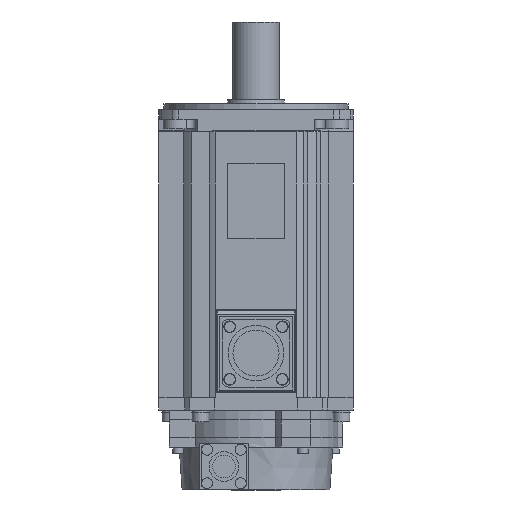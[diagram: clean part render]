
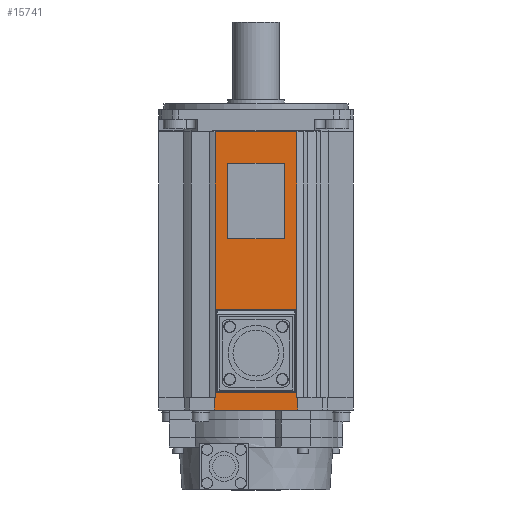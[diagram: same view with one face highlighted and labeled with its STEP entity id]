
A CAD part, front view. The second image highlights one B-rep face of the part: STEP entity #15741.
In plain terms, the highlighted planar face has unit normal (0, -1, 0).
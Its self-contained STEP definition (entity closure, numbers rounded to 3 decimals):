
#4971 = CARTESIAN_POINT ( 'NONE',  ( -20.5, -51., -102.7 ) ) ;
#4972 = CARTESIAN_POINT ( 'NONE',  ( 20.5, -51., -102.7 ) ) ;
#4973 = CARTESIAN_POINT ( 'NONE',  ( 21., -51., -148. ) ) ;
#4974 = DIRECTION ( 'NONE',  ( -1., 0., 0. ) ) ;
#4975 = VECTOR ( 'NONE', #4974, 1000. ) ;
#4976 = CARTESIAN_POINT ( 'NONE',  ( 21.5, -51., -148. ) ) ;
#4977 = LINE ( 'NONE', #4976, #4975 ) ;
#4978 = CARTESIAN_POINT ( 'NONE',  ( 21.5, -51., -148. ) ) ;
#4979 = DIRECTION ( 'NONE',  ( 0., 0., 1. ) ) ;
#4980 = VECTOR ( 'NONE', #4979, 1000. ) ;
#4981 = CARTESIAN_POINT ( 'NONE',  ( 21.5, -51., -301.63 ) ) ;
#4982 = LINE ( 'NONE', #4981, #4980 ) ;
#4983 = CARTESIAN_POINT ( 'NONE',  ( 21.5, -51., -154.5 ) ) ;
#4984 = DIRECTION ( 'NONE',  ( 1., 0., 0. ) ) ;
#4985 = VECTOR ( 'NONE', #4984, 1000. ) ;
#4986 = CARTESIAN_POINT ( 'NONE',  ( 21.5, -51., -154.5 ) ) ;
#4987 = LINE ( 'NONE', #4986, #4985 ) ;
#4988 = CARTESIAN_POINT ( 'NONE',  ( -21.5, -51., -154.5 ) ) ;
#4989 = DIRECTION ( 'NONE',  ( 0., 0., 1. ) ) ;
#4990 = VECTOR ( 'NONE', #4989, 1000. ) ;
#4991 = CARTESIAN_POINT ( 'NONE',  ( -21.5, -51., -301.63 ) ) ;
#4992 = LINE ( 'NONE', #4991, #4990 ) ;
#4993 = CARTESIAN_POINT ( 'NONE',  ( -21.5, -51., -148. ) ) ;
#4994 = DIRECTION ( 'NONE',  ( -1., 0., 0. ) ) ;
#4995 = VECTOR ( 'NONE', #4994, 1000. ) ;
#4996 = CARTESIAN_POINT ( 'NONE',  ( 21.5, -51., -148. ) ) ;
#4997 = LINE ( 'NONE', #4996, #4995 ) ;
#5012 = CARTESIAN_POINT ( 'NONE',  ( -21., -51., -11.5 ) ) ;
#5013 = CARTESIAN_POINT ( 'NONE',  ( -21., -51., -148. ) ) ;
#5014 = DIRECTION ( 'NONE',  ( 0., 0., 1. ) ) ;
#5015 = VECTOR ( 'NONE', #5014, 1000. ) ;
#5016 = CARTESIAN_POINT ( 'NONE',  ( -21., -51., -192.598 ) ) ;
#5017 = LINE ( 'NONE', #5016, #5015 ) ;
#5018 = DIRECTION ( 'NONE',  ( 0., 0., -1. ) ) ;
#5019 = VECTOR ( 'NONE', #5018, 1000. ) ;
#5020 = CARTESIAN_POINT ( 'NONE',  ( -20.5, -51., -102.7 ) ) ;
#5021 = LINE ( 'NONE', #5020, #5019 ) ;
#5022 = CARTESIAN_POINT ( 'NONE',  ( -20.5, -51., -145.7 ) ) ;
#5023 = DIRECTION ( 'NONE',  ( 1., 0., 0. ) ) ;
#5024 = VECTOR ( 'NONE', #5023, 1000. ) ;
#5025 = CARTESIAN_POINT ( 'NONE',  ( 20.5, -51., -145.7 ) ) ;
#5026 = LINE ( 'NONE', #5025, #5024 ) ;
#5027 = CARTESIAN_POINT ( 'NONE',  ( 20.5, -51., -145.7 ) ) ;
#5028 = DIRECTION ( 'NONE',  ( 0., 0., 1. ) ) ;
#5029 = VECTOR ( 'NONE', #5028, 1000. ) ;
#5030 = CARTESIAN_POINT ( 'NONE',  ( 20.5, -51., -102.7 ) ) ;
#5031 = LINE ( 'NONE', #5030, #5029 ) ;
#5040 = DIRECTION ( 'NONE',  ( -1., 0., 0. ) ) ;
#5041 = VECTOR ( 'NONE', #5040, 1000. ) ;
#5042 = CARTESIAN_POINT ( 'NONE',  ( 20.5, -51., -102.7 ) ) ;
#5043 = LINE ( 'NONE', #5042, #5041 ) ;
#5044 = DIRECTION ( 'NONE',  ( 1., 0., 0. ) ) ;
#5045 = DIRECTION ( 'NONE',  ( 0., -1., 0. ) ) ;
#5046 = CARTESIAN_POINT ( 'NONE',  ( 21., -51., -192.598 ) ) ;
#5047 = AXIS2_PLACEMENT_3D ( 'NONE', #5046, #5045, #5044 ) ;
#5049 = PLANE ( 'NONE',  #5047 ) ;
#5050 = FACE_BOUND ( 'NONE', #15776, .T. ) ;
#5051 = FACE_OUTER_BOUND ( 'NONE', #15725, .T. ) ;
#5052 = FACE_BOUND ( 'NONE', #15742, .T. ) ;
#5091 = DIRECTION ( 'NONE',  ( 0., 0., 1. ) ) ;
#5092 = VECTOR ( 'NONE', #5091, 1000. ) ;
#5093 = CARTESIAN_POINT ( 'NONE',  ( 14.5, -51., -66.5 ) ) ;
#5094 = LINE ( 'NONE', #5093, #5092 ) ;
#5104 = CARTESIAN_POINT ( 'NONE',  ( -14.5, -51., -27.5 ) ) ;
#5105 = DIRECTION ( 'NONE',  ( 0., 0., -1. ) ) ;
#5106 = VECTOR ( 'NONE', #5105, 1000. ) ;
#5107 = CARTESIAN_POINT ( 'NONE',  ( -14.5, -51., -66.5 ) ) ;
#5108 = LINE ( 'NONE', #5107, #5106 ) ;
#5111 = CARTESIAN_POINT ( 'NONE',  ( 14.5, -51., -66.5 ) ) ;
#5112 = CARTESIAN_POINT ( 'NONE',  ( -14.5, -51., -66.5 ) ) ;
#5113 = DIRECTION ( 'NONE',  ( 1., 0., 0. ) ) ;
#5114 = VECTOR ( 'NONE', #5113, 1000. ) ;
#5115 = CARTESIAN_POINT ( 'NONE',  ( -14.5, -51., -66.5 ) ) ;
#5116 = LINE ( 'NONE', #5115, #5114 ) ;
#5117 = DIRECTION ( 'NONE',  ( 1., 0., 0. ) ) ;
#5118 = VECTOR ( 'NONE', #5117, 1000. ) ;
#5119 = CARTESIAN_POINT ( 'NONE',  ( 21., -51., -11.5 ) ) ;
#5120 = LINE ( 'NONE', #5119, #5118 ) ;
#5121 = CARTESIAN_POINT ( 'NONE',  ( 21., -51., -11.5 ) ) ;
#5122 = DIRECTION ( 'NONE',  ( 0., 0., 1. ) ) ;
#5123 = VECTOR ( 'NONE', #5122, 1000. ) ;
#5124 = CARTESIAN_POINT ( 'NONE',  ( 21., -51., -192.598 ) ) ;
#5125 = LINE ( 'NONE', #5124, #5123 ) ;
#5167 = CARTESIAN_POINT ( 'NONE',  ( 14.5, -51., -27.5 ) ) ;
#5168 = DIRECTION ( 'NONE',  ( -1., 0., 0. ) ) ;
#5169 = VECTOR ( 'NONE', #5168, 1000. ) ;
#5170 = CARTESIAN_POINT ( 'NONE',  ( -14.5, -51., -27.5 ) ) ;
#5171 = LINE ( 'NONE', #5170, #5169 ) ;
#15700 = ORIENTED_EDGE ( 'NONE', *, *, #15701, .T. ) ;
#15701 = EDGE_CURVE ( 'NONE', #15728, #15702, #4997, .T. ) ;
#15702 = VERTEX_POINT ( 'NONE', #4993 ) ;
#15703 = ORIENTED_EDGE ( 'NONE', *, *, #15704, .F. ) ;
#15704 = EDGE_CURVE ( 'NONE', #15705, #15702, #4992, .T. ) ;
#15705 = VERTEX_POINT ( 'NONE', #4988 ) ;
#15706 = ORIENTED_EDGE ( 'NONE', *, *, #15707, .T. ) ;
#15707 = EDGE_CURVE ( 'NONE', #15705, #15708, #4987, .T. ) ;
#15708 = VERTEX_POINT ( 'NONE', #4983 ) ;
#15709 = ORIENTED_EDGE ( 'NONE', *, *, #15710, .T. ) ;
#15710 = EDGE_CURVE ( 'NONE', #15708, #15711, #4982, .T. ) ;
#15711 = VERTEX_POINT ( 'NONE', #4978 ) ;
#15712 = ORIENTED_EDGE ( 'NONE', *, *, #15713, .T. ) ;
#15713 = EDGE_CURVE ( 'NONE', #15711, #15714, #4977, .T. ) ;
#15714 = VERTEX_POINT ( 'NONE', #4973 ) ;
#15715 = VERTEX_POINT ( 'NONE', #4972 ) ;
#15716 = VERTEX_POINT ( 'NONE', #4971 ) ;
#15717 = ORIENTED_EDGE ( 'NONE', *, *, #15718, .F. ) ;
#15718 = EDGE_CURVE ( 'NONE', #15719, #15715, #5031, .T. ) ;
#15719 = VERTEX_POINT ( 'NONE', #5027 ) ;
#15720 = ORIENTED_EDGE ( 'NONE', *, *, #15721, .F. ) ;
#15721 = EDGE_CURVE ( 'NONE', #15722, #15719, #5026, .T. ) ;
#15722 = VERTEX_POINT ( 'NONE', #5022 ) ;
#15723 = ORIENTED_EDGE ( 'NONE', *, *, #15724, .F. ) ;
#15724 = EDGE_CURVE ( 'NONE', #15716, #15722, #5021, .T. ) ;
#15725 = EDGE_LOOP ( 'NONE', ( #15726, #15700, #15703, #15706, #15709, #15712, #15771, #15774 ) ) ;
#15726 = ORIENTED_EDGE ( 'NONE', *, *, #15727, .F. ) ;
#15727 = EDGE_CURVE ( 'NONE', #15728, #15729, #5017, .T. ) ;
#15728 = VERTEX_POINT ( 'NONE', #5013 ) ;
#15729 = VERTEX_POINT ( 'NONE', #5012 ) ;
#15741 = ADVANCED_FACE ( 'NONE', ( #5052, #5051, #5050 ), #5049, .T. ) ;
#15742 = EDGE_LOOP ( 'NONE', ( #15743, #15717, #15720, #15723 ) ) ;
#15743 = ORIENTED_EDGE ( 'NONE', *, *, #15744, .F. ) ;
#15744 = EDGE_CURVE ( 'NONE', #15715, #15716, #5043, .T. ) ;
#15758 = ORIENTED_EDGE ( 'NONE', *, *, #15759, .F. ) ;
#15759 = EDGE_CURVE ( 'NONE', #15780, #15786, #5094, .T. ) ;
#15771 = ORIENTED_EDGE ( 'NONE', *, *, #15772, .T. ) ;
#15772 = EDGE_CURVE ( 'NONE', #15714, #15773, #5125, .T. ) ;
#15773 = VERTEX_POINT ( 'NONE', #5121 ) ;
#15774 = ORIENTED_EDGE ( 'NONE', *, *, #15775, .F. ) ;
#15775 = EDGE_CURVE ( 'NONE', #15729, #15773, #5120, .T. ) ;
#15776 = EDGE_LOOP ( 'NONE', ( #15777, #15781, #15784, #15758 ) ) ;
#15777 = ORIENTED_EDGE ( 'NONE', *, *, #15778, .F. ) ;
#15778 = EDGE_CURVE ( 'NONE', #15779, #15780, #5116, .T. ) ;
#15779 = VERTEX_POINT ( 'NONE', #5112 ) ;
#15780 = VERTEX_POINT ( 'NONE', #5111 ) ;
#15781 = ORIENTED_EDGE ( 'NONE', *, *, #15782, .F. ) ;
#15782 = EDGE_CURVE ( 'NONE', #15783, #15779, #5108, .T. ) ;
#15783 = VERTEX_POINT ( 'NONE', #5104 ) ;
#15784 = ORIENTED_EDGE ( 'NONE', *, *, #15785, .F. ) ;
#15785 = EDGE_CURVE ( 'NONE', #15786, #15783, #5171, .T. ) ;
#15786 = VERTEX_POINT ( 'NONE', #5167 ) ;
